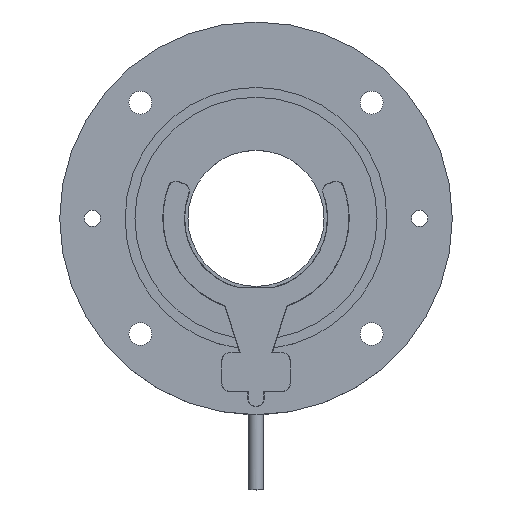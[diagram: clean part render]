
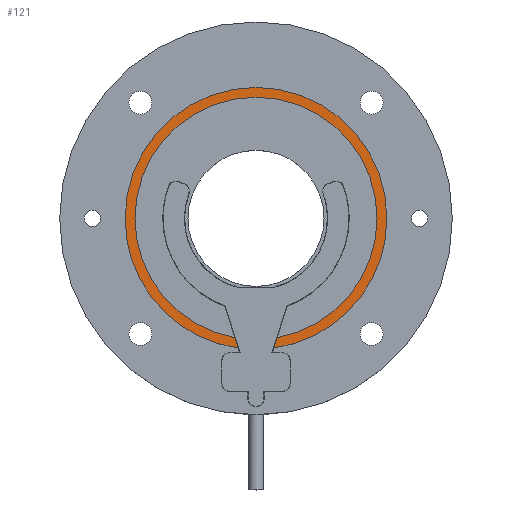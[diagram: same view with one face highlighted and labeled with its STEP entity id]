
A CAD part, top view. The second image highlights one B-rep face of the part: STEP entity #121.
In plain terms, the highlighted planar face has unit normal (0, 0, 1).
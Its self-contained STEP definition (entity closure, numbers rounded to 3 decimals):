
#97 = AXIS2_PLACEMENT_3D ( 'NONE', #756, #3323, #2589 ) ;
#121 = ADVANCED_FACE ( 'NONE', ( #3830 ), #1900, .F. ) ;
#257 = CARTESIAN_POINT ( 'NONE',  ( -27.081, 28.381, 0. ) ) ;
#278 = VECTOR ( 'NONE', #593, 1000. ) ;
#316 = ORIENTED_EDGE ( 'NONE', *, *, #3043, .T. ) ;
#347 = DIRECTION ( 'NONE',  ( 1., 0., 0. ) ) ;
#365 = CARTESIAN_POINT ( 'NONE',  ( 0., 0., 0. ) ) ;
#503 = DIRECTION ( 'NONE',  ( 0., 0., 1. ) ) ;
#520 = DIRECTION ( 'NONE',  ( 1., 0., 0. ) ) ;
#535 = VERTEX_POINT ( 'NONE', #1400 ) ;
#561 = LINE ( 'NONE', #2085, #4653 ) ;
#593 = DIRECTION ( 'NONE',  ( 0.303, -0.953, 0. ) ) ;
#618 = ORIENTED_EDGE ( 'NONE', *, *, #3424, .T. ) ;
#697 = ORIENTED_EDGE ( 'NONE', *, *, #827, .T. ) ;
#737 = VERTEX_POINT ( 'NONE', #3434 ) ;
#756 = CARTESIAN_POINT ( 'NONE',  ( 0., 37., 0. ) ) ;
#773 = CARTESIAN_POINT ( 'NONE',  ( 37., 0., 0. ) ) ;
#791 = DIRECTION ( 'NONE',  ( 1., 0., 0. ) ) ;
#827 = EDGE_CURVE ( 'NONE', #2935, #1659, #2335, .T. ) ;
#1033 = ORIENTED_EDGE ( 'NONE', *, *, #1057, .F. ) ;
#1057 = EDGE_CURVE ( 'NONE', #737, #1289, #1332, .T. ) ;
#1119 = DIRECTION ( 'NONE',  ( 0., 0., 1. ) ) ;
#1256 = CARTESIAN_POINT ( 'NONE',  ( 0., 0., 0. ) ) ;
#1272 = CARTESIAN_POINT ( 'NONE',  ( 6.453, -36.433, 0. ) ) ;
#1289 = VERTEX_POINT ( 'NONE', #1435 ) ;
#1332 = LINE ( 'NONE', #257, #278 ) ;
#1387 = AXIS2_PLACEMENT_3D ( 'NONE', #365, #1119, #1853 ) ;
#1400 = CARTESIAN_POINT ( 'NONE',  ( -37., 0., 0. ) ) ;
#1421 = EDGE_CURVE ( 'NONE', #535, #737, #1593, .T. ) ;
#1435 = CARTESIAN_POINT ( 'NONE',  ( -5.436, -39.629, 0. ) ) ;
#1593 = CIRCLE ( 'NONE', #4168, 37. ) ;
#1607 = ORIENTED_EDGE ( 'NONE', *, *, #1421, .F. ) ;
#1659 = VERTEX_POINT ( 'NONE', #4022 ) ;
#1718 = DIRECTION ( 'NONE',  ( -0.303, -0.953, 0. ) ) ;
#1853 = DIRECTION ( 'NONE',  ( 1., 0., 0. ) ) ;
#1900 = PLANE ( 'NONE',  #97 ) ;
#2085 = CARTESIAN_POINT ( 'NONE',  ( 27.07, 28.391, 0. ) ) ;
#2146 = ORIENTED_EDGE ( 'NONE', *, *, #2462, .T. ) ;
#2289 = AXIS2_PLACEMENT_3D ( 'NONE', #3207, #3572, #2893 ) ;
#2335 = CIRCLE ( 'NONE', #3587, 40. ) ;
#2462 = EDGE_CURVE ( 'NONE', #3100, #2935, #4398, .T. ) ;
#2572 = DIRECTION ( 'NONE',  ( 0., 0., 1. ) ) ;
#2589 = DIRECTION ( 'NONE',  ( -1., 0., 0. ) ) ;
#2672 = DIRECTION ( 'NONE',  ( 1., 0., 0. ) ) ;
#2762 = CIRCLE ( 'NONE', #4541, 40. ) ;
#2893 = DIRECTION ( 'NONE',  ( 1., 0., 0. ) ) ;
#2903 = ORIENTED_EDGE ( 'NONE', *, *, #4656, .F. ) ;
#2935 = VERTEX_POINT ( 'NONE', #3112 ) ;
#3043 = EDGE_CURVE ( 'NONE', #1659, #1289, #2762, .T. ) ;
#3094 = CIRCLE ( 'NONE', #1387, 37. ) ;
#3100 = VERTEX_POINT ( 'NONE', #3625 ) ;
#3112 = CARTESIAN_POINT ( 'NONE',  ( 40., 0., 0. ) ) ;
#3207 = CARTESIAN_POINT ( 'NONE',  ( 0., 0., 0. ) ) ;
#3323 = DIRECTION ( 'NONE',  ( 0., 0., -1. ) ) ;
#3336 = EDGE_LOOP ( 'NONE', ( #1033, #1607, #4712, #2903, #618, #2146, #697, #316 ) ) ;
#3424 = EDGE_CURVE ( 'NONE', #4091, #3100, #561, .T. ) ;
#3434 = CARTESIAN_POINT ( 'NONE',  ( -6.454, -36.433, 0. ) ) ;
#3572 = DIRECTION ( 'NONE',  ( 0., 0., 1. ) ) ;
#3587 = AXIS2_PLACEMENT_3D ( 'NONE', #4195, #503, #791 ) ;
#3625 = CARTESIAN_POINT ( 'NONE',  ( 5.436, -39.629, 0. ) ) ;
#3830 = FACE_OUTER_BOUND ( 'NONE', #3336, .T. ) ;
#3870 = DIRECTION ( 'NONE',  ( 0., 0., 1. ) ) ;
#4013 = EDGE_CURVE ( 'NONE', #4047, #535, #3094, .T. ) ;
#4022 = CARTESIAN_POINT ( 'NONE',  ( -40., 0., 0. ) ) ;
#4047 = VERTEX_POINT ( 'NONE', #773 ) ;
#4091 = VERTEX_POINT ( 'NONE', #1272 ) ;
#4108 = CARTESIAN_POINT ( 'NONE',  ( 0., 0., 0. ) ) ;
#4116 = DIRECTION ( 'NONE',  ( 0., 0., 1. ) ) ;
#4137 = CARTESIAN_POINT ( 'NONE',  ( 0., 0., 0. ) ) ;
#4168 = AXIS2_PLACEMENT_3D ( 'NONE', #4137, #4116, #2672 ) ;
#4195 = CARTESIAN_POINT ( 'NONE',  ( 0., 0., 0. ) ) ;
#4382 = AXIS2_PLACEMENT_3D ( 'NONE', #4108, #2572, #347 ) ;
#4398 = CIRCLE ( 'NONE', #2289, 40. ) ;
#4455 = CIRCLE ( 'NONE', #4382, 37. ) ;
#4541 = AXIS2_PLACEMENT_3D ( 'NONE', #1256, #3870, #520 ) ;
#4653 = VECTOR ( 'NONE', #1718, 1000. ) ;
#4656 = EDGE_CURVE ( 'NONE', #4091, #4047, #4455, .T. ) ;
#4712 = ORIENTED_EDGE ( 'NONE', *, *, #4013, .F. ) ;
